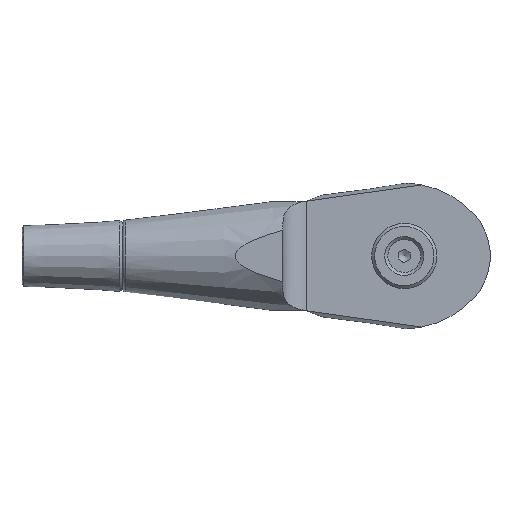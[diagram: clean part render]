
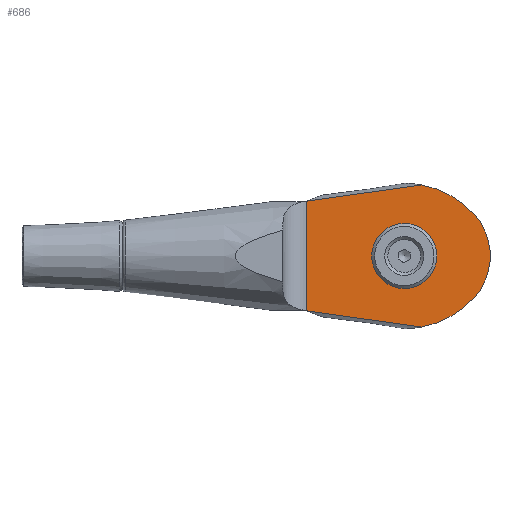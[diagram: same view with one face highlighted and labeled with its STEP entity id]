
A CAD part, front view. The second image highlights one B-rep face of the part: STEP entity #686.
In plain terms, the highlighted planar face has unit normal (0, -1, 0).
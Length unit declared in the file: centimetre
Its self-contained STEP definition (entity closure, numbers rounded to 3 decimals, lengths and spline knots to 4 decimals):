
#20=LINE('',#1197,#40);
#40=VECTOR('',#890,1.8507);
#65=(
BOUNDED_CURVE()
B_SPLINE_CURVE(2,(#1058,#1059,#1060),.UNSPECIFIED.,.F.,.F.)
B_SPLINE_CURVE_WITH_KNOTS((3,3),(0.,2.0958),.UNSPECIFIED.)
CURVE()
GEOMETRIC_REPRESENTATION_ITEM()
RATIONAL_B_SPLINE_CURVE((1.,1.011,1.007))
REPRESENTATION_ITEM('')
);
#69=(
BOUNDED_CURVE()
B_SPLINE_CURVE(2,(#1152,#1153,#1154),.UNSPECIFIED.,.F.,.F.)
B_SPLINE_CURVE_WITH_KNOTS((3,3),(1.0343,3.1301),
 .UNSPECIFIED.)
CURVE()
GEOMETRIC_REPRESENTATION_ITEM()
RATIONAL_B_SPLINE_CURVE((1.007,1.011,1.))
REPRESENTATION_ITEM('')
);
#96=PLANE('',#759);
#122=FACE_BOUND('',#216,.T.);
#157=FACE_OUTER_BOUND('',#215,.T.);
#215=EDGE_LOOP('',(#504,#505,#506,#507,#508,#509));
#216=EDGE_LOOP('',(#510));
#281=CIRCLE('',#748,0.45);
#283=CIRCLE('',#751,1.5939);
#285=CIRCLE('',#754,1.5939);
#287=CIRCLE('',#757,1.05);
#319=VERTEX_POINT('',#1042);
#320=VERTEX_POINT('',#1057);
#331=VERTEX_POINT('',#1140);
#332=VERTEX_POINT('',#1151);
#334=VERTEX_POINT('',#1177);
#336=VERTEX_POINT('',#1182);
#338=VERTEX_POINT('',#1188);
#382=EDGE_CURVE('',#319,#320,#65,.T.);
#394=EDGE_CURVE('',#331,#332,#69,.T.);
#399=EDGE_CURVE('',#334,#334,#281,.T.);
#401=EDGE_CURVE('',#331,#336,#283,.T.);
#404=EDGE_CURVE('',#338,#320,#285,.T.);
#407=EDGE_CURVE('',#336,#338,#287,.T.);
#409=EDGE_CURVE('',#319,#332,#20,.T.);
#504=ORIENTED_EDGE('',*,*,#401,.T.);
#505=ORIENTED_EDGE('',*,*,#407,.T.);
#506=ORIENTED_EDGE('',*,*,#404,.T.);
#507=ORIENTED_EDGE('',*,*,#382,.F.);
#508=ORIENTED_EDGE('',*,*,#409,.T.);
#509=ORIENTED_EDGE('',*,*,#394,.F.);
#510=ORIENTED_EDGE('',*,*,#399,.T.);
#686=ADVANCED_FACE('',(#157,#122),#96,.F.);
#748=AXIS2_PLACEMENT_3D('',#1178,#864,#865);
#751=AXIS2_PLACEMENT_3D('',#1183,#870,#871);
#754=AXIS2_PLACEMENT_3D('',#1189,#877,#878);
#757=AXIS2_PLACEMENT_3D('',#1194,#884,#885);
#759=AXIS2_PLACEMENT_3D('',#1196,#888,#889);
#864=DIRECTION('center_axis',(0.,1.,0.));
#865=DIRECTION('ref_axis',(-1.,0.,0.));
#870=DIRECTION('center_axis',(0.,-1.,0.));
#871=DIRECTION('ref_axis',(0.,0.,1.));
#877=DIRECTION('center_axis',(0.,-1.,0.));
#878=DIRECTION('ref_axis',(-0.735,0.,-0.678));
#884=DIRECTION('center_axis',(0.,-1.,0.));
#885=DIRECTION('ref_axis',(-0.735,0.,0.678));
#888=DIRECTION('center_axis',(0.,1.,0.));
#889=DIRECTION('ref_axis',(-1.,0.,0.));
#890=DIRECTION('',(0.,0.,-1.));
#1042=CARTESIAN_POINT('',(-1.65,-0.4,0.9254));
#1057=CARTESIAN_POINT('',(0.2906,-0.4,1.1986));
#1058=CARTESIAN_POINT('Ctrl Pts',(-1.65,-0.4,0.9254));
#1059=CARTESIAN_POINT('Ctrl Pts',(-0.8045,-0.4,1.0466));
#1060=CARTESIAN_POINT('Ctrl Pts',(0.2906,-0.4,1.1986));
#1140=CARTESIAN_POINT('',(0.2906,-0.4,-1.1986));
#1151=CARTESIAN_POINT('',(-1.65,-0.4,-0.9254));
#1152=CARTESIAN_POINT('Ctrl Pts',(0.2906,-0.4,-1.1986));
#1153=CARTESIAN_POINT('Ctrl Pts',(-0.8045,-0.4,-1.0466));
#1154=CARTESIAN_POINT('Ctrl Pts',(-1.65,-0.4,-0.9254));
#1177=CARTESIAN_POINT('',(0.45,-0.4,0.));
#1178=CARTESIAN_POINT('Origin',(0.,-0.4,0.));
#1182=CARTESIAN_POINT('',(1.1722,-0.4,-0.7115));
#1183=CARTESIAN_POINT('Origin',(0.,-0.4,0.3686));
#1188=CARTESIAN_POINT('',(1.1722,-0.4,0.7115));
#1189=CARTESIAN_POINT('Origin',(0.,-0.4,-0.3686));
#1194=CARTESIAN_POINT('Origin',(0.4,-0.4,0.));
#1196=CARTESIAN_POINT('Origin',(1.45,-0.4,0.));
#1197=CARTESIAN_POINT('',(-1.65,-0.4,0.));
